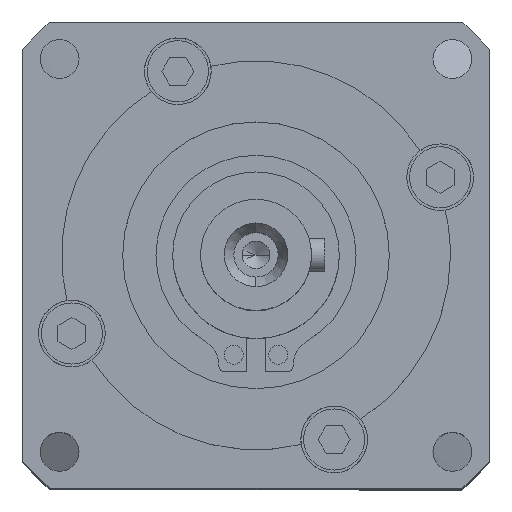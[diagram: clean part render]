
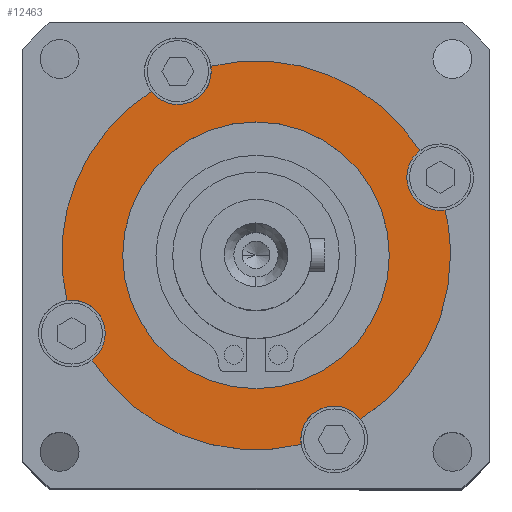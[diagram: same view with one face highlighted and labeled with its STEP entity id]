
A CAD part, top view. The second image highlights one B-rep face of the part: STEP entity #12463.
In plain terms, the highlighted planar face has unit normal (0, 0, 1).
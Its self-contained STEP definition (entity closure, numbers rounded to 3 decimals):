
#333 = AXIS2_PLACEMENT_3D ( 'NONE', #16849, #44223, #20780 ) ;
#821 = DIRECTION ( 'NONE',  ( -1., 0., 0. ) ) ;
#1027 = EDGE_LOOP ( 'NONE', ( #39069, #34656 ) ) ;
#1423 = DIRECTION ( 'NONE',  ( 0., 0., -1. ) ) ;
#1676 = EDGE_CURVE ( 'NONE', #31504, #38413, #4613, .T. ) ;
#2003 = CIRCLE ( 'NONE', #22756, 3. ) ;
#2391 = DIRECTION ( 'NONE',  ( 0., 0., -1. ) ) ;
#2584 = DIRECTION ( 'NONE',  ( -1., 0., 0. ) ) ;
#3098 = EDGE_CURVE ( 'NONE', #27539, #46028, #38278, .T. ) ;
#4074 = EDGE_CURVE ( 'NONE', #35451, #28391, #10015, .T. ) ;
#4541 = ORIENTED_EDGE ( 'NONE', *, *, #1676, .F. ) ;
#4613 = CIRCLE ( 'NONE', #42576, 17.5 ) ;
#6423 = ORIENTED_EDGE ( 'NONE', *, *, #37639, .T. ) ;
#6960 = CARTESIAN_POINT ( 'NONE',  ( 13.569, 7.033, 0. ) ) ;
#7107 = VERTEX_POINT ( 'NONE', #30859 ) ;
#7787 = DIRECTION ( 'NONE',  ( 0., 0., -1. ) ) ;
#7928 = ORIENTED_EDGE ( 'NONE', *, *, #22472, .F. ) ;
#8063 = CARTESIAN_POINT ( 'NONE',  ( -7.033, 16.569, 0. ) ) ;
#9705 = EDGE_CURVE ( 'NONE', #27539, #37510, #12102, .T. ) ;
#9761 = VERTEX_POINT ( 'NONE', #25926 ) ;
#10015 = CIRCLE ( 'NONE', #43619, 17.5 ) ;
#10498 = DIRECTION ( 'NONE',  ( 0., 0., -1. ) ) ;
#10901 = DIRECTION ( 'NONE',  ( -1., 0., 0. ) ) ;
#11006 = ORIENTED_EDGE ( 'NONE', *, *, #9705, .T. ) ;
#11033 = EDGE_CURVE ( 'NONE', #7107, #9761, #27433, .T. ) ;
#11170 = AXIS2_PLACEMENT_3D ( 'NONE', #49456, #26087, #2584 ) ;
#11242 = CARTESIAN_POINT ( 'NONE',  ( 4.033, -16.569, 0. ) ) ;
#11700 = DIRECTION ( 'NONE',  ( 0., 0., -1. ) ) ;
#11844 = CIRCLE ( 'NONE', #38816, 17.5 ) ;
#12004 = DIRECTION ( 'NONE',  ( -1., 0., 0. ) ) ;
#12046 = CARTESIAN_POINT ( 'NONE',  ( -13.569, -7.033, 0. ) ) ;
#12102 = CIRCLE ( 'NONE', #25261, 3. ) ;
#12244 = VERTEX_POINT ( 'NONE', #12046 ) ;
#12463 = ADVANCED_FACE ( 'NONE', ( #20553, #29819 ), #46756, .F. ) ;
#14255 = VERTEX_POINT ( 'NONE', #48535 ) ;
#14744 = CARTESIAN_POINT ( 'NONE',  ( 4.067, -17.021, 0. ) ) ;
#15034 = AXIS2_PLACEMENT_3D ( 'NONE', #25892, #2391, #29855 ) ;
#15562 = EDGE_CURVE ( 'NONE', #37510, #38413, #2003, .T. ) ;
#15865 = ORIENTED_EDGE ( 'NONE', *, *, #23877, .T. ) ;
#15953 = ORIENTED_EDGE ( 'NONE', *, *, #3098, .F. ) ;
#16716 = VERTEX_POINT ( 'NONE', #31719 ) ;
#16849 = CARTESIAN_POINT ( 'NONE',  ( 0., 0., 0. ) ) ;
#17505 = CIRCLE ( 'NONE', #24071, 3. ) ;
#17819 = VERTEX_POINT ( 'NONE', #36561 ) ;
#17849 = CARTESIAN_POINT ( 'NONE',  ( 0., 0., 0. ) ) ;
#18387 = AXIS2_PLACEMENT_3D ( 'NONE', #42825, #31079, #50695 ) ;
#18883 = CIRCLE ( 'NONE', #15034, 3. ) ;
#18898 = ORIENTED_EDGE ( 'NONE', *, *, #20535, .T. ) ;
#19233 = EDGE_CURVE ( 'NONE', #9761, #7107, #48978, .T. ) ;
#19452 = AXIS2_PLACEMENT_3D ( 'NONE', #8063, #35516, #12004 ) ;
#20339 = AXIS2_PLACEMENT_3D ( 'NONE', #17849, #45223, #21815 ) ;
#20535 = EDGE_CURVE ( 'NONE', #12244, #28391, #22622, .T. ) ;
#20553 = FACE_OUTER_BOUND ( 'NONE', #38996, .T. ) ;
#20780 = DIRECTION ( 'NONE',  ( 1., 0., 0. ) ) ;
#21815 = DIRECTION ( 'NONE',  ( 1., 0., 0. ) ) ;
#22042 = CIRCLE ( 'NONE', #23234, 3. ) ;
#22121 = DIRECTION ( 'NONE',  ( 0., 0., -1. ) ) ;
#22466 = CARTESIAN_POINT ( 'NONE',  ( -7.033, 16.569, 0. ) ) ;
#22472 = EDGE_CURVE ( 'NONE', #14255, #41139, #11844, .T. ) ;
#22622 = CIRCLE ( 'NONE', #11170, 3. ) ;
#22756 = AXIS2_PLACEMENT_3D ( 'NONE', #35229, #11700, #39144 ) ;
#23234 = AXIS2_PLACEMENT_3D ( 'NONE', #47683, #24297, #821 ) ;
#23837 = EDGE_CURVE ( 'NONE', #46028, #16716, #24699, .T. ) ;
#23877 = EDGE_CURVE ( 'NONE', #31504, #17819, #32698, .T. ) ;
#24071 = AXIS2_PLACEMENT_3D ( 'NONE', #31314, #7787, #35244 ) ;
#24297 = DIRECTION ( 'NONE',  ( 0., 0., -1. ) ) ;
#24699 = CIRCLE ( 'NONE', #33037, 17.5 ) ;
#24906 = CARTESIAN_POINT ( 'NONE',  ( 0., 0., 0. ) ) ;
#25261 = AXIS2_PLACEMENT_3D ( 'NONE', #33765, #10498, #10901 ) ;
#25892 = CARTESIAN_POINT ( 'NONE',  ( 7.033, -16.569, 0. ) ) ;
#25926 = CARTESIAN_POINT ( 'NONE',  ( -12., 0., 0. ) ) ;
#26087 = DIRECTION ( 'NONE',  ( 0., 0., -1. ) ) ;
#26434 = DIRECTION ( 'NONE',  ( -1., 0., 0. ) ) ;
#27433 = CIRCLE ( 'NONE', #333, 12. ) ;
#27539 = VERTEX_POINT ( 'NONE', #35440 ) ;
#28391 = VERTEX_POINT ( 'NONE', #37359 ) ;
#28709 = CARTESIAN_POINT ( 'NONE',  ( 17.5, 0., 0. ) ) ;
#28880 = DIRECTION ( 'NONE',  ( 1., 0., 0. ) ) ;
#29078 = DIRECTION ( 'NONE',  ( 0., 0., -1. ) ) ;
#29819 = FACE_BOUND ( 'NONE', #1027, .T. ) ;
#29855 = DIRECTION ( 'NONE',  ( -1., 0., 0. ) ) ;
#30412 = CARTESIAN_POINT ( 'NONE',  ( 14.749, 9.418, 0. ) ) ;
#30859 = CARTESIAN_POINT ( 'NONE',  ( 12., 0., 0. ) ) ;
#30931 = ORIENTED_EDGE ( 'NONE', *, *, #38743, .T. ) ;
#31033 = ORIENTED_EDGE ( 'NONE', *, *, #4074, .F. ) ;
#31054 = CIRCLE ( 'NONE', #19452, 3. ) ;
#31079 = DIRECTION ( 'NONE',  ( 0., 0., -1. ) ) ;
#31159 = DIRECTION ( 'NONE',  ( 1., 0., 0. ) ) ;
#31222 = DIRECTION ( 'NONE',  ( 0., 0., -1. ) ) ;
#31314 = CARTESIAN_POINT ( 'NONE',  ( 7.033, -16.569, 0. ) ) ;
#31316 = CARTESIAN_POINT ( 'NONE',  ( 0., 0., 0. ) ) ;
#31504 = VERTEX_POINT ( 'NONE', #37867 ) ;
#31719 = CARTESIAN_POINT ( 'NONE',  ( 9.418, -14.749, 0. ) ) ;
#32523 = ORIENTED_EDGE ( 'NONE', *, *, #44240, .T. ) ;
#32698 = CIRCLE ( 'NONE', #40831, 3. ) ;
#33037 = AXIS2_PLACEMENT_3D ( 'NONE', #45528, #22121, #49451 ) ;
#33765 = CARTESIAN_POINT ( 'NONE',  ( 16.569, 7.033, 0. ) ) ;
#34656 = ORIENTED_EDGE ( 'NONE', *, *, #19233, .F. ) ;
#35229 = CARTESIAN_POINT ( 'NONE',  ( 16.569, 7.033, 0. ) ) ;
#35244 = DIRECTION ( 'NONE',  ( -1., 0., 0. ) ) ;
#35440 = CARTESIAN_POINT ( 'NONE',  ( 17.021, 4.067, 0. ) ) ;
#35451 = VERTEX_POINT ( 'NONE', #14744 ) ;
#35516 = DIRECTION ( 'NONE',  ( 0., 0., -1. ) ) ;
#36561 = CARTESIAN_POINT ( 'NONE',  ( -4.033, 16.569, 0. ) ) ;
#37359 = CARTESIAN_POINT ( 'NONE',  ( -14.749, -9.418, 0. ) ) ;
#37510 = VERTEX_POINT ( 'NONE', #6960 ) ;
#37639 = EDGE_CURVE ( 'NONE', #14255, #12244, #22042, .T. ) ;
#37867 = CARTESIAN_POINT ( 'NONE',  ( -4.067, 17.021, 0. ) ) ;
#38278 = CIRCLE ( 'NONE', #41298, 17.5 ) ;
#38413 = VERTEX_POINT ( 'NONE', #30412 ) ;
#38743 = EDGE_CURVE ( 'NONE', #35451, #42754, #18883, .T. ) ;
#38761 = ORIENTED_EDGE ( 'NONE', *, *, #44808, .T. ) ;
#38816 = AXIS2_PLACEMENT_3D ( 'NONE', #24906, #1423, #28880 ) ;
#38996 = EDGE_LOOP ( 'NONE', ( #7928, #6423, #18898, #31033, #30931, #32523, #48445, #15953, #11006, #41305, #4541, #15865, #38761 ) ) ;
#39069 = ORIENTED_EDGE ( 'NONE', *, *, #11033, .F. ) ;
#39144 = DIRECTION ( 'NONE',  ( -1., 0., 0. ) ) ;
#40048 = DIRECTION ( 'NONE',  ( 1., 0., 0. ) ) ;
#40124 = CARTESIAN_POINT ( 'NONE',  ( 0., 0., 0. ) ) ;
#40831 = AXIS2_PLACEMENT_3D ( 'NONE', #22466, #49807, #26434 ) ;
#41139 = VERTEX_POINT ( 'NONE', #49330 ) ;
#41298 = AXIS2_PLACEMENT_3D ( 'NONE', #31316, #31222, #31159 ) ;
#41305 = ORIENTED_EDGE ( 'NONE', *, *, #15562, .T. ) ;
#42576 = AXIS2_PLACEMENT_3D ( 'NONE', #40124, #29078, #49719 ) ;
#42754 = VERTEX_POINT ( 'NONE', #11242 ) ;
#42825 = CARTESIAN_POINT ( 'NONE',  ( 0., 12., 0. ) ) ;
#43619 = AXIS2_PLACEMENT_3D ( 'NONE', #49826, #49367, #40048 ) ;
#44223 = DIRECTION ( 'NONE',  ( 0., 0., 1. ) ) ;
#44240 = EDGE_CURVE ( 'NONE', #42754, #16716, #17505, .T. ) ;
#44808 = EDGE_CURVE ( 'NONE', #17819, #41139, #31054, .T. ) ;
#45223 = DIRECTION ( 'NONE',  ( 0., 0., 1. ) ) ;
#45528 = CARTESIAN_POINT ( 'NONE',  ( 0., 0., 0. ) ) ;
#46028 = VERTEX_POINT ( 'NONE', #28709 ) ;
#46756 = PLANE ( 'NONE',  #18387 ) ;
#47683 = CARTESIAN_POINT ( 'NONE',  ( -16.569, -7.033, 0. ) ) ;
#48445 = ORIENTED_EDGE ( 'NONE', *, *, #23837, .F. ) ;
#48535 = CARTESIAN_POINT ( 'NONE',  ( -17.021, -4.067, 0. ) ) ;
#48978 = CIRCLE ( 'NONE', #20339, 12. ) ;
#49330 = CARTESIAN_POINT ( 'NONE',  ( -9.418, 14.749, 0. ) ) ;
#49367 = DIRECTION ( 'NONE',  ( 0., 0., -1. ) ) ;
#49451 = DIRECTION ( 'NONE',  ( 1., 0., 0. ) ) ;
#49456 = CARTESIAN_POINT ( 'NONE',  ( -16.569, -7.033, 0. ) ) ;
#49719 = DIRECTION ( 'NONE',  ( 1., 0., 0. ) ) ;
#49807 = DIRECTION ( 'NONE',  ( 0., 0., -1. ) ) ;
#49826 = CARTESIAN_POINT ( 'NONE',  ( 0., 0., 0. ) ) ;
#50695 = DIRECTION ( 'NONE',  ( -1., 0., 0. ) ) ;
